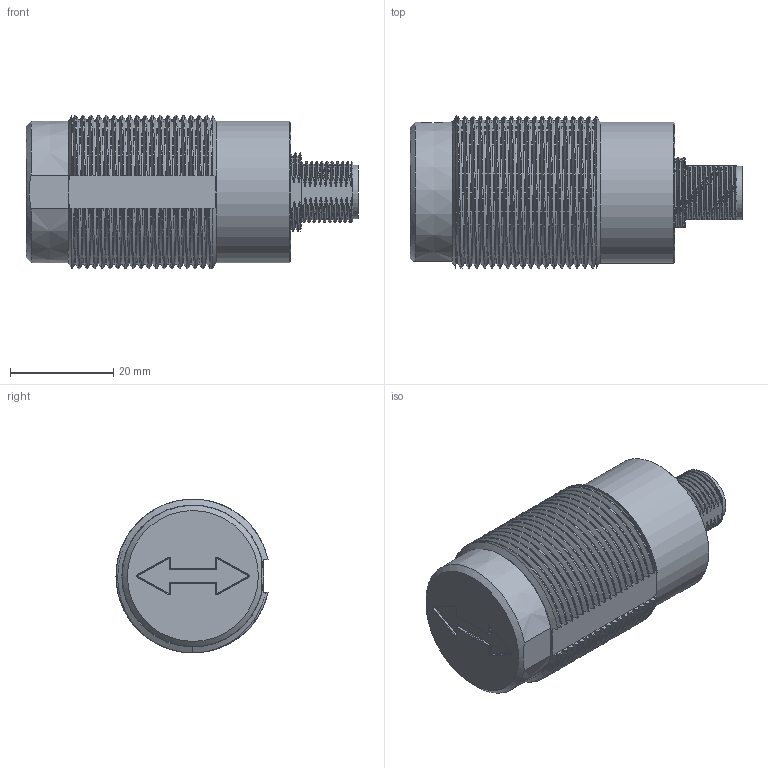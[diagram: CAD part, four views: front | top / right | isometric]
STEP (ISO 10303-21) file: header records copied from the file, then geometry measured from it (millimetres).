
FILE_DESCRIPTION(/* description */ (''),/* implementation_level */ '2;1');
FILE_NAME(/* name */ 'LZ30X-CUST-ASSY-WRAP.step',/* time_stamp */ '2024-06-17T13:33:43-05:00',/* author */ (''),/* organization */ (''),/* preprocessor_version */ 'ST-DEVELOPER v20',/* originating_system */ 'Autodesk Translation Framework v13.14.0.145',/* authorisation */ '');
FILE_SCHEMA (('AUTOMOTIVE_DESIGN { 1 0 10303 214 3 1 1 }'));
Length unit declared in the file: inch
Products named in the file (1): LZ30X-CUST-ASSY-WRAP
Bounding box: 64.46 x 29.51 x 29.85 mm (x, y, z)
Volume: 32106 mm3; surface area: 8967.8 mm2
Topology: 1 solids, 1 shells, 511 faces, 1420 edges, 925 vertices
Faces by surface type: bspline 251, cylinder 115, plane 113, cone 17, sphere 15
Full cylindrical faces by diameter (mm): 1 x5, 8.3 x1, 10.4 x1, 26.035 x1, 27.432 x1
Entity records: 30207 total; most frequent: CARTESIAN_POINT 19491, ORIENTED_EDGE 2830, EDGE_CURVE 1415, DIRECTION 1222, VERTEX_POINT 925, B_SPLINE_CURVE_WITH_KNOTS 864, EDGE_LOOP 530, FACE_OUTER_BOUND 511
